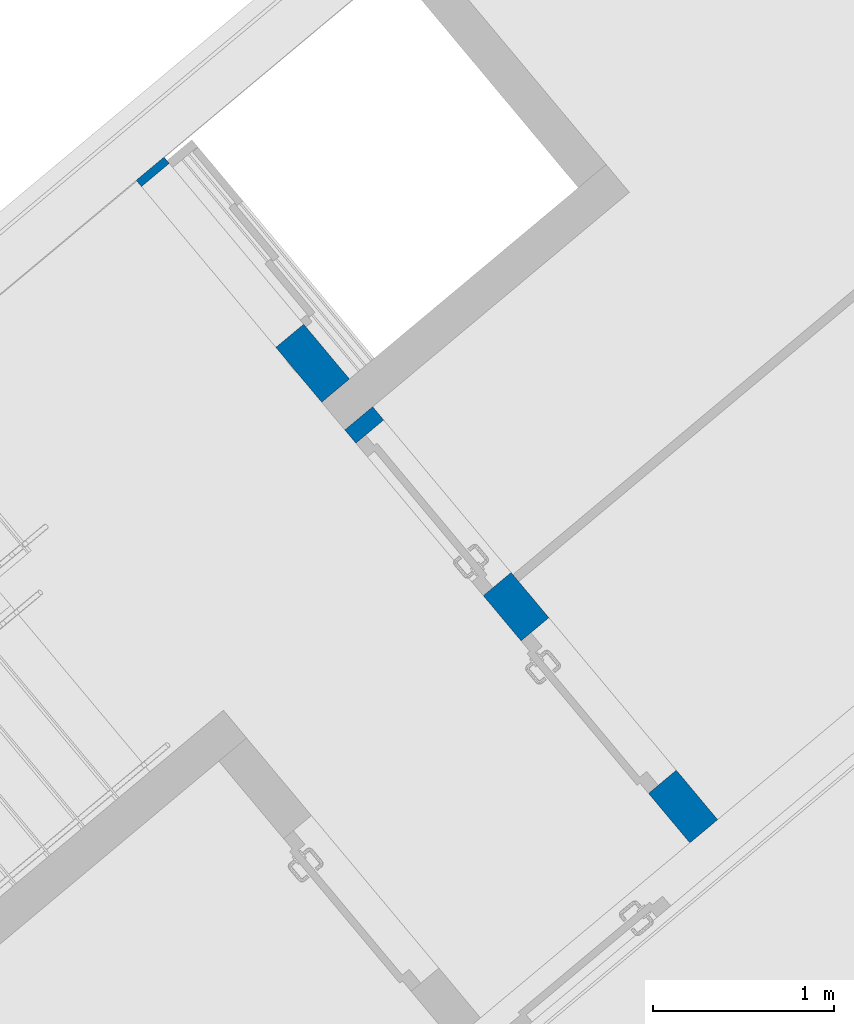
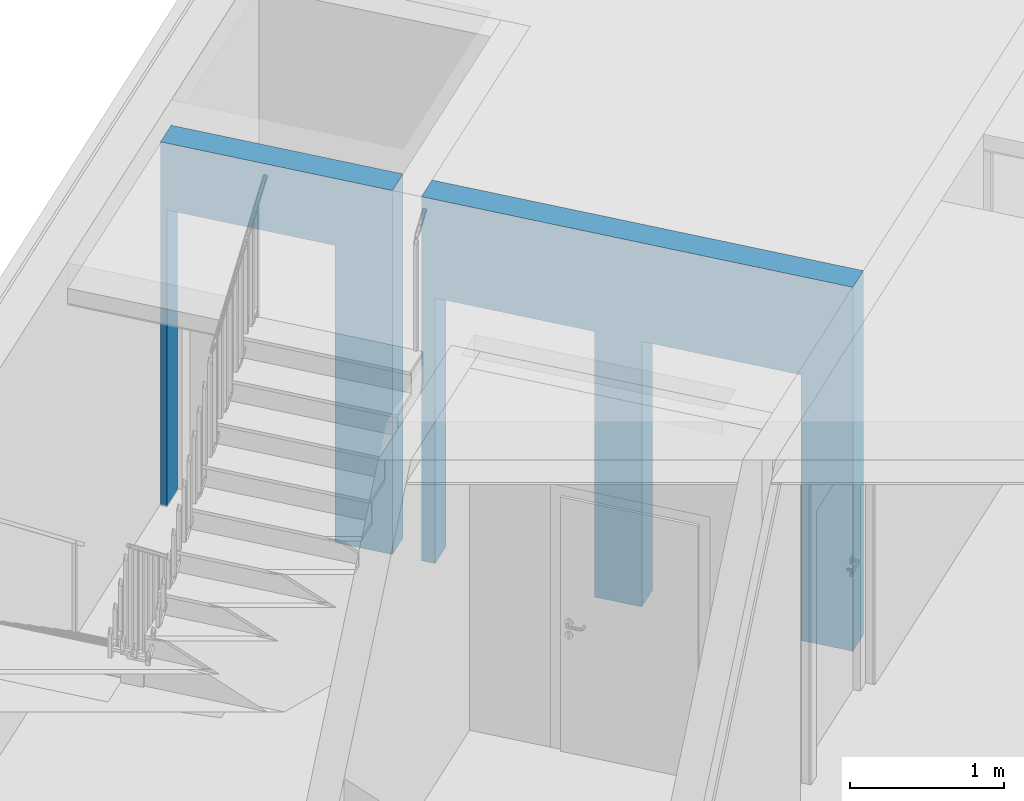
# One storey, part 4 of 17: 1 wall, 3 openings.
"""IFC4 building model written with IfcOpenShell, lengths in metres."""

from ifc_helpers import new_model, entity, si_unit, converted_unit, derived_unit, direction, frame, origin_with_axes, place, context, subcontext, project, spatial, polygons, material, type_object, element, save


model = new_model("IFC4")

# Units and contexts
model_context = context("Model", 3, precision=1e-05, world=origin_with_axes(), true_north=direction((0.0, 1.0)))
body_context = subcontext(model_context, "Body", "Model", "MODEL_VIEW")
ifc_project = project(units=[si_unit("LENGTHUNIT", "METRE"), si_unit("AREAUNIT", "SQUARE_METRE"), si_unit("VOLUMEUNIT", "CUBIC_METRE"), converted_unit("PLANEANGLEUNIT", "DEGREE", entity("IfcPlaneAngleMeasure", 0.0174532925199), si_unit("PLANEANGLEUNIT", "RADIAN"), dimensions=[0, 0, 0, 0, 0, 0, 0]), converted_unit("TIMEUNIT", "Year", entity("IfcTimeMeasure", 31556926.0), si_unit("TIMEUNIT", "SECOND"), dimensions=[0, 0, 1, 0, 0, 0, 0]), si_unit("MASSUNIT", "GRAM", prefix="KILO"), si_unit("THERMODYNAMICTEMPERATUREUNIT", "DEGREE_CELSIUS"), si_unit("LUMINOUSINTENSITYUNIT", "LUMEN"), si_unit("ENERGYUNIT", "JOULE", prefix="MEGA"), derived_unit("THERMALCONDUCTANCEUNIT", [(si_unit("POWERUNIT", "WATT"), 1), (si_unit("LENGTHUNIT", "METRE"), -1), (si_unit("THERMODYNAMICTEMPERATUREUNIT", "KELVIN"), -1)]), derived_unit("SPECIFICHEATCAPACITYUNIT", [(si_unit("ENERGYUNIT", "JOULE"), 1), (si_unit("MASSUNIT", "GRAM", prefix="KILO"), -1), (si_unit("THERMODYNAMICTEMPERATUREUNIT", "KELVIN"), -1)]), derived_unit("MASSDENSITYUNIT", [(si_unit("MASSUNIT", "GRAM", prefix="KILO"), 1), (si_unit("VOLUMEUNIT", "CUBIC_METRE"), -1)])], contexts=[model_context])

# Site, building, storey
site_placement = place(None, frame((-0.00153261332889, -0.00661245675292, 0.0), z_axis=(0.0, 0.0, 1.0), x_axis=(1.0, 0.0, 0.0)))
site = spatial("IfcSite", under=ifc_project, at=site_placement, Name="Site", CompositionType="ELEMENT")
building_placement = place(site_placement, origin_with_axes())
building = spatial("IfcBuilding", under=site, at=building_placement, Name="Building", CompositionType="ELEMENT")
storey_placement = place(building_placement, frame((0.0, 0.0, -3.3), z_axis=(0.0, 0.0, 1.0), x_axis=(1.0, 0.0, 0.0)))
storey = spatial("IfcBuildingStorey", under=building, at=storey_placement, Name="UG1", CompositionType="ELEMENT", Elevation=-3.3)

# Wall, openings
ifc_material = material(Name="Stahlbeton Wand")
wall_type = type_object("IfcWallType", Name="Stahlbeton Wand 200", PredefinedType="NOTDEFINED")
wall_placement = place(storey_placement, frame((3.39972062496, 22.3471640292, 0.0), z_axis=(0.0, 0.0, 1.0), x_axis=(-0.641209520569, 0.767365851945, 0.0)))
wall = element("IfcWall", 1, at=wall_placement, inside=storey, type_object=wall_type, material=ifc_material, Name="Wand-009", PredefinedType="NOTDEFINED", context=body_context, shape_type="Tessellation", body=[
    polygons([(4.7320246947, -8.03421412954e-06, 2.35), (4.7320246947, -8.03415262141e-06, 0.015), (4.7320246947, -8.03415262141e-06, 0.0), (4.77700945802, 0.0, 0.0), (4.77700945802, 0.0, 2.88), (3.17702469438, 0.0, 2.88), (3.17702469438, 0.0, 0.0), (3.5720246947, -8.03421413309e-06, 0.0), (3.5720246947, -8.03421412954e-06, 0.015), (3.5720246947, -8.03421412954e-06, 2.35), (4.7320246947, 0.2, 2.35), (4.7320246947, 0.2, 0.015), (4.7320246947, 0.2, 0.0), (4.77700957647, 0.2, 0.0), (4.77700957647, 0.2, 2.88), (3.17702469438, 0.2, 2.88), (3.17702469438, 0.2, 0.0), (3.5720246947, 0.2, 0.0), (3.5720246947, 0.2, 0.015), (3.5720246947, 0.2, 2.35)], [[[1, 2, 3, 4, 5, 6, 7, 8, 9, 10]], [[2, 1, 11, 12]], [[2, 12, 13, 3]], [[3, 13, 14, 4]], [[4, 14, 15, 5]], [[5, 15, 16, 6]], [[16, 17, 7, 6]], [[18, 8, 7, 17]], [[19, 9, 8, 18]], [[10, 9, 19, 20]], [[1, 10, 20, 11]], [[20, 19, 18, 17, 16, 15, 14, 13, 12, 11]]], closed=True),
    polygons([(1.78187331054, 0.13, 0.015), (1.78187331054, 0.2, 0.015), (1.78187331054, 0.2, 2.1), (1.78187331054, 0.0, 2.1), (1.78187331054, 0.0, 0.015), (1.78187331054, 0.0, 0.0), (1.78187331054, 0.2, 0.0), (1.45642288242, 0.2, 0.0), (1.45642288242, 0.2, 0.015), (1.45642288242, 0.2, 2.1), (0.356422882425, 0.2, 2.1), (0.356422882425, 0.2, 0.015), (0.356422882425, 0.2, 0.0), (0.0, 0.2, 0.0), (0.0, 0.2, 2.88), (2.97702469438, 0.2, 2.88), (2.97702469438, 0.2, 0.0), (2.88187331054, 0.2, 0.0), (2.88187331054, 0.2, 0.015), (2.88187331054, 0.2, 2.1), (2.88187331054, 0.0, 2.1), (2.88187331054, 0.0, 0.015), (2.88187331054, 0.0, 0.0), (2.97702469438, 0.0, 0.0), (2.97702469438, 0.0, 2.88), (0.0, 0.0, 2.88), (0.0, 0.0, 0.0), (0.356422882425, 0.0, 0.0), (0.356422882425, 0.0, 0.015), (0.356422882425, 0.0, 2.1), (1.45642288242, 0.0, 2.1), (1.45642288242, 0.0, 0.015), (1.45642288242, 0.0, 0.0), (2.88187331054, 0.13, 0.015)], [[[1, 2, 3, 4, 5]], [[2, 1, 5, 6, 7]], [[3, 2, 7, 8, 9, 10, 11, 12, 13, 14, 15, 16, 17, 18, 19, 20]], [[4, 3, 20, 21]], [[6, 5, 4, 21, 22, 23, 24, 25, 26, 27, 28, 29, 30, 31, 32, 33]], [[33, 8, 7, 6]], [[8, 33, 32, 9]], [[10, 9, 32, 31]], [[11, 10, 31, 30]], [[12, 11, 30, 29]], [[28, 13, 12, 29]], [[27, 14, 13, 28]], [[27, 26, 15, 14]], [[15, 26, 25, 16]], [[16, 25, 24, 17]], [[17, 24, 23, 18]], [[34, 19, 18, 23, 22]], [[20, 19, 34, 22, 21]]], closed=True),
])
opening_1_placement = place(wall_placement, frame((0.906422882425, 0.0, 0.0), z_axis=(0.0, 0.0, 1.0), x_axis=(1.0, 0.0, 0.0)))
element("IfcOpeningElement", 2, at=opening_1_placement, cuts=wall, Name="Tür-001", context=body_context, identifier="Reference", shape_type="Tessellation", body=[
    polygons([(-0.55, -2.52370547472, 2.1), (-0.55, -2.52370547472, 0.0), (0.55, -2.52370547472, 0.0), (0.55, -2.52370547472, 2.1), (-0.55, 2.72370547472, 2.1), (-0.55, 2.72370547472, 0.0), (0.55, 2.72370547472, 0.0), (0.55, 2.72370547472, 2.1)], [[[1, 2, 3, 4]], [[5, 6, 2, 1]], [[6, 7, 3, 2]], [[7, 8, 4, 3]], [[8, 5, 1, 4]], [[7, 6, 5, 8]]], closed=True),
])
opening_2_placement = place(wall_placement, frame((2.33187331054, 0.0, 0.0), z_axis=(0.0, 0.0, 1.0), x_axis=(1.0, 0.0, 0.0)))
element("IfcOpeningElement", 3, at=opening_2_placement, cuts=wall, Name="Tür-001", context=body_context, identifier="Reference", shape_type="Tessellation", body=[
    polygons([(0.55, 0.13, 0.0), (0.55, 0.13, 2.1), (0.55, -2.52370547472, 2.1), (0.55, -2.52370547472, 0.0), (0.55, 2.72370547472, 0.0), (0.55, 2.72370547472, 2.1), (-0.55, 0.13, 2.1), (-0.55, -2.52370547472, 2.1), (-0.55, 2.72370547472, 2.1), (-0.55, -2.52370547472, 0.0), (-0.55, 0.13, 0.0), (-0.55, 2.72370547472, 0.0)], [[[1, 2, 3, 4]], [[2, 1, 5, 6]], [[7, 8, 3, 2, 6, 9]], [[8, 10, 4, 3]], [[1, 4, 10, 11, 12, 5]], [[6, 5, 12, 9]], [[7, 11, 10, 8]], [[11, 7, 9, 12]]], closed=True),
])
opening_3_placement = place(wall_placement, frame((4.1520246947, 0.0, 0.0), z_axis=(0.0, 0.0, 1.0), x_axis=(1.0, 0.0, 0.0)))
element("IfcOpeningElement", 4, at=opening_3_placement, cuts=wall, Name="Tür-003", context=body_context, identifier="Reference", shape_type="Tessellation", body=[
    polygons([(0.58, 2.72370547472, 2.35), (0.58, 2.72370547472, 0.0), (-0.58, 2.72370547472, 0.0), (-0.58, 2.72370547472, 2.35), (0.58, -2.52370547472, 2.35), (0.58, -2.52370547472, 0.0), (-0.58, -2.52370547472, 0.0), (-0.58, -2.52370547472, 2.35)], [[[1, 2, 3, 4]], [[5, 6, 2, 1]], [[6, 7, 3, 2]], [[7, 8, 4, 3]], [[8, 5, 1, 4]], [[7, 6, 5, 8]]], closed=True),
])

save(model, "model.ifc")
